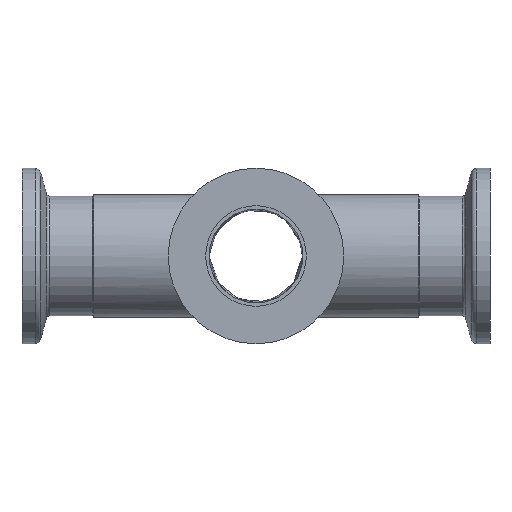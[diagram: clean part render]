
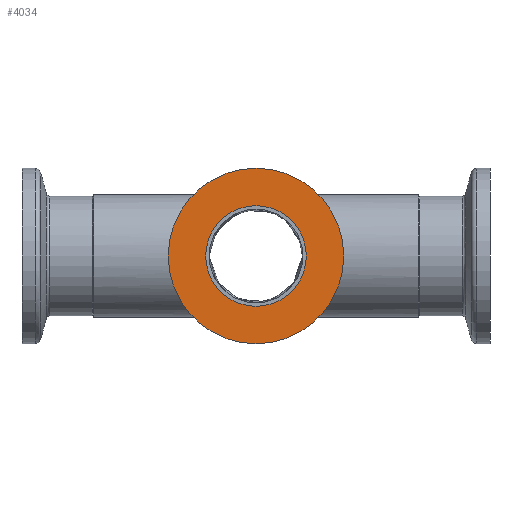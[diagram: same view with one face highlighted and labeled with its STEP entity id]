
A CAD part, front view. The second image highlights one B-rep face of the part: STEP entity #4034.
In plain terms, the highlighted planar face has unit normal (0, -1, 0).
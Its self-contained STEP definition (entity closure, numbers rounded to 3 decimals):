
#3950=CARTESIAN_POINT('',(15.,-40.0,0.0));
#3951=VERTEX_POINT('',#3950);
#3952=CARTESIAN_POINT('',(-15.,-40.0,0.));
#3953=VERTEX_POINT('',#3952);
#3954=CARTESIAN_POINT('',(0.,-40.0,0.0));
#3955=DIRECTION('',(0.0,1.0,0.0));
#3956=DIRECTION('',(1.0,0.0,0.0));
#3957=AXIS2_PLACEMENT_3D('',#3954,#3955,#3956);
#3958=CIRCLE('',#3957,15.);
#3959=EDGE_CURVE('',#3951,#3953,#3958,.T.);
#3961=CARTESIAN_POINT('',(0.,-40.0,0.0));
#3962=DIRECTION('',(0.0,1.0,0.0));
#3963=DIRECTION('',(1.0,0.0,0.0));
#3964=AXIS2_PLACEMENT_3D('',#3961,#3962,#3963);
#3965=CIRCLE('',#3964,15.);
#3966=EDGE_CURVE('',#3953,#3951,#3965,.T.);
#4005=CARTESIAN_POINT('',(11.8,-40.0,0.0));
#4006=DIRECTION('',(0.0,1.0,0.0));
#4007=DIRECTION('',(0.0,0.0,1.0));
#4008=AXIS2_PLACEMENT_3D('',#4005,#4006,#4007);
#4009=PLANE('',#4008);
#4010=ORIENTED_EDGE('',*,*,#3959,.F.);
#4011=ORIENTED_EDGE('',*,*,#3966,.F.);
#4012=EDGE_LOOP('',(#4010,#4011));
#4013=FACE_OUTER_BOUND('',#4012,.T.);
#4014=CARTESIAN_POINT('',(8.6,-40.0,0.0));
#4015=VERTEX_POINT('',#4014);
#4016=CARTESIAN_POINT('',(-8.6,-40.0,0.));
#4017=VERTEX_POINT('',#4016);
#4018=CARTESIAN_POINT('',(0.,-40.0,0.0));
#4019=DIRECTION('',(0.0,1.0,0.0));
#4020=DIRECTION('',(1.0,0.0,0.0));
#4021=AXIS2_PLACEMENT_3D('',#4018,#4019,#4020);
#4022=CIRCLE('',#4021,8.6);
#4023=EDGE_CURVE('',#4015,#4017,#4022,.T.);
#4024=ORIENTED_EDGE('',*,*,#4023,.T.);
#4025=CARTESIAN_POINT('',(0.,-40.0,0.0));
#4026=DIRECTION('',(0.0,1.0,0.0));
#4027=DIRECTION('',(1.0,0.0,0.0));
#4028=AXIS2_PLACEMENT_3D('',#4025,#4026,#4027);
#4029=CIRCLE('',#4028,8.6);
#4030=EDGE_CURVE('',#4017,#4015,#4029,.T.);
#4031=ORIENTED_EDGE('',*,*,#4030,.T.);
#4032=EDGE_LOOP('',(#4024,#4031));
#4033=FACE_BOUND('',#4032,.T.);
#4034=ADVANCED_FACE('',(#4013,#4033),#4009,.F.);
